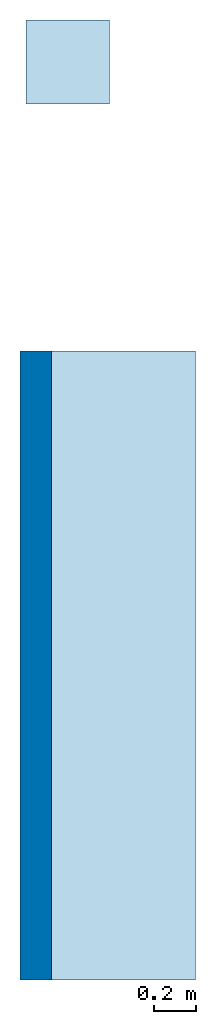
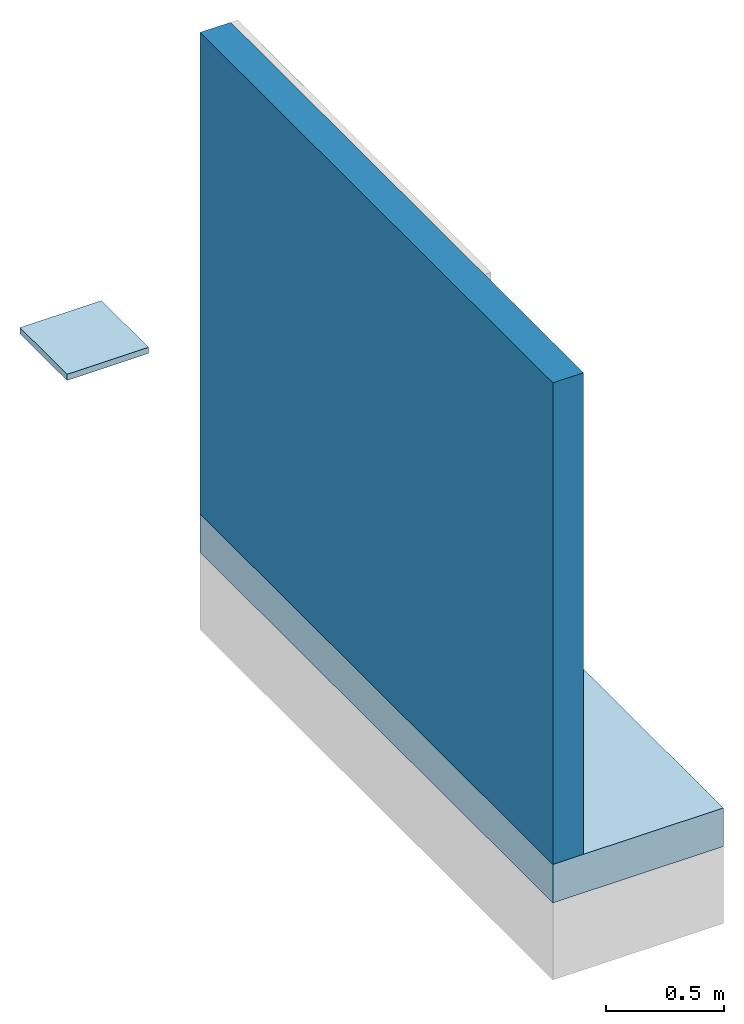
# One storey, part 1 of 2: 2 slabs, 1 wall.
"""IFC2X3 building model written with IfcOpenShell, lengths in metres."""

from ifc_helpers import new_model, entity, si_unit, converted_unit, derived_unit, direction, frame, frame_2d, origin, origin_2d_with_axis, place, context, subcontext, project, spatial, rectangle, extrude, material, layer, layer_set, layer_usage, type_object, element, save


model = new_model("IFC2X3")

# Units and contexts
model_context = context("Model", 3, precision=1e-05, world=origin(), true_north=direction((6.123031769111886e-17, 1.0)))
body_context = subcontext(model_context, "Body", "Model", "MODEL_VIEW")
ifc_project = project(units=[si_unit("LENGTHUNIT", "METRE"), si_unit("AREAUNIT", "SQUARE_METRE"), si_unit("VOLUMEUNIT", "CUBIC_METRE"), converted_unit("PLANEANGLEUNIT", "DEGREE", entity("IfcRatioMeasure", 0.017453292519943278), si_unit("PLANEANGLEUNIT", "RADIAN"), dimensions=[0, 0, 0, 0, 0, 0, 0]), si_unit("MASSUNIT", "GRAM", prefix="KILO"), derived_unit("MASSDENSITYUNIT", [(si_unit("MASSUNIT", "GRAM", prefix="KILO"), 1), (si_unit("LENGTHUNIT", "METRE"), -3)]), derived_unit("IONCONCENTRATIONUNIT", [(si_unit("MASSUNIT", "GRAM", prefix="KILO"), 1), (si_unit("LENGTHUNIT", "METRE"), -3)]), derived_unit("MOMENTOFINERTIAUNIT", [(si_unit("LENGTHUNIT", "METRE"), 4)]), si_unit("TIMEUNIT", "SECOND"), si_unit("FREQUENCYUNIT", "HERTZ"), si_unit("THERMODYNAMICTEMPERATUREUNIT", "DEGREE_CELSIUS"), derived_unit("THERMALTRANSMITTANCEUNIT", [(si_unit("MASSUNIT", "GRAM", prefix="KILO"), 1), (si_unit("THERMODYNAMICTEMPERATUREUNIT", "KELVIN"), -1), (si_unit("TIMEUNIT", "SECOND"), -3)]), derived_unit("THERMALCONDUCTANCEUNIT", [(si_unit("MASSUNIT", "GRAM", prefix="KILO"), 1), (si_unit("THERMODYNAMICTEMPERATUREUNIT", "KELVIN"), -1), (si_unit("TIMEUNIT", "SECOND"), -3), (si_unit("LENGTHUNIT", "METRE"), 1)]), derived_unit("VOLUMETRICFLOWRATEUNIT", [(si_unit("LENGTHUNIT", "METRE"), 3), (si_unit("TIMEUNIT", "SECOND"), -1)]), derived_unit("MASSFLOWRATEUNIT", [(si_unit("MASSUNIT", "GRAM", prefix="KILO"), 1), (si_unit("TIMEUNIT", "SECOND"), -1)]), derived_unit("ROTATIONALFREQUENCYUNIT", [(si_unit("TIMEUNIT", "SECOND"), -1)]), si_unit("ELECTRICCURRENTUNIT", "AMPERE"), si_unit("ELECTRICVOLTAGEUNIT", "VOLT"), si_unit("POWERUNIT", "WATT"), si_unit("FORCEUNIT", "NEWTON", prefix="KILO"), si_unit("ILLUMINANCEUNIT", "LUX"), si_unit("LUMINOUSFLUXUNIT", "LUMEN"), si_unit("LUMINOUSINTENSITYUNIT", "CANDELA"), derived_unit("USERDEFINED", [(si_unit("MASSUNIT", "GRAM", prefix="KILO"), -1), (si_unit("LENGTHUNIT", "METRE"), -2), (si_unit("TIMEUNIT", "SECOND"), 3), (si_unit("LUMINOUSFLUXUNIT", "LUMEN"), 1)]), derived_unit("USERDEFINED", [(si_unit("MASSUNIT", "GRAM", prefix="KILO"), 1), (si_unit("TIMEUNIT", "SECOND"), -3), (si_unit("LENGTHUNIT", "METRE"), 3), (si_unit("ELECTRICCURRENTUNIT", "AMPERE"), -2)]), derived_unit("SOUNDPOWERUNIT", [(si_unit("MASSUNIT", "GRAM", prefix="KILO"), 1), (si_unit("TIMEUNIT", "SECOND"), -3), (si_unit("LENGTHUNIT", "METRE"), 2)]), derived_unit("SOUNDPRESSUREUNIT", [(si_unit("MASSUNIT", "GRAM", prefix="KILO"), 1), (si_unit("LENGTHUNIT", "METRE"), -1), (si_unit("TIMEUNIT", "SECOND"), -2)]), derived_unit("LINEARVELOCITYUNIT", [(si_unit("LENGTHUNIT", "METRE"), 1), (si_unit("TIMEUNIT", "SECOND"), -1)]), si_unit("PRESSUREUNIT", "PASCAL"), derived_unit("USERDEFINED", [(si_unit("MASSUNIT", "GRAM", prefix="KILO"), 1), (si_unit("LENGTHUNIT", "METRE"), -2), (si_unit("TIMEUNIT", "SECOND"), -2)]), derived_unit("LINEARFORCEUNIT", [(si_unit("MASSUNIT", "GRAM", prefix="KILO"), 1), (si_unit("TIMEUNIT", "SECOND"), -2)]), derived_unit("PLANARFORCEUNIT", [(si_unit("MASSUNIT", "GRAM", prefix="KILO"), 1), (si_unit("LENGTHUNIT", "METRE"), -1), (si_unit("TIMEUNIT", "SECOND"), -2)]), derived_unit("SPECIFICHEATCAPACITYUNIT", [(si_unit("THERMODYNAMICTEMPERATUREUNIT", "KELVIN"), -1), (si_unit("LENGTHUNIT", "METRE"), 2), (si_unit("TIMEUNIT", "SECOND"), -2)]), derived_unit("HEATINGVALUEUNIT", [(si_unit("LENGTHUNIT", "METRE"), 2), (si_unit("TIMEUNIT", "SECOND"), -2)]), derived_unit("VAPORPERMEABILITYUNIT", [(si_unit("LENGTHUNIT", "METRE"), -1), (si_unit("TIMEUNIT", "SECOND"), 1)]), derived_unit("DYNAMICVISCOSITYUNIT", [(si_unit("MASSUNIT", "GRAM", prefix="KILO"), 1), (si_unit("TIMEUNIT", "SECOND"), -1), (si_unit("LENGTHUNIT", "METRE"), -1)]), derived_unit("THERMALEXPANSIONCOEFFICIENTUNIT", [(si_unit("THERMODYNAMICTEMPERATUREUNIT", "KELVIN"), -1)]), derived_unit("MODULUSOFELASTICITYUNIT", [(si_unit("MASSUNIT", "GRAM", prefix="KILO"), 1), (si_unit("LENGTHUNIT", "METRE"), -1), (si_unit("TIMEUNIT", "SECOND"), -2)]), derived_unit("ISOTHERMALMOISTURECAPACITYUNIT", [(si_unit("LENGTHUNIT", "METRE"), 3), (si_unit("MASSUNIT", "GRAM", prefix="KILO"), -1)]), derived_unit("MOISTUREDIFFUSIVITYUNIT", [(si_unit("TIMEUNIT", "SECOND"), -1), (si_unit("LENGTHUNIT", "METRE"), 2)])], contexts=[model_context])

# Site, building, storey
site_placement = place(None, origin())
site = spatial("IfcSite", under=ifc_project, at=site_placement, Name="Default", CompositionType="ELEMENT")
building_placement = place(site_placement, origin())
building = spatial("IfcBuilding", under=site, at=building_placement, CompositionType="ELEMENT")
storey_placement = place(building_placement, frame((0.0, 0.0, -0.0025237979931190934)))
storey = spatial("IfcBuildingStorey", under=building, at=storey_placement, Name="ARQ Térreo", CompositionType="ELEMENT", Elevation=-0.0025237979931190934)

# Slabs
ifc_material_1 = material(Name="#Viaplus Reparo")
ifc_layer_1 = layer(ifc_material_1, 0.0009999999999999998)
ifc_material_2 = material(Name="#reboco")
ifc_layer_2 = layer(ifc_material_2, 0.03)
ifc_material_3 = material(Name="#chapisco")
ifc_layer_3 = layer(ifc_material_3, 0.0009999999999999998)
ifc_layer_set_1 = layer_set([ifc_layer_1, ifc_layer_2, ifc_layer_3], Name="Piso:IMPH_VPREPARO")
ifc_layer_usage_1 = layer_usage(ifc_layer_set_1, "AXIS3", "POSITIVE", 0.0)
slab_type_1 = type_object("IfcSlabType", Name="Piso:IMPH_VPREPARO", PredefinedType="FLOOR", material=ifc_layer_set_1)
slab_1_placement = place(storey_placement, origin())
element("IfcSlab", 1, at=slab_1_placement, inside=storey, type_object=slab_type_1, material=ifc_layer_usage_1, Name="Piso:IMPH_VPREPARO", ObjectType="Piso:IMPH_VPREPARO", PredefinedType="FLOOR", context=body_context, shape_type="SweptSolid", body=[
    extrude(rectangle(XDim=0.4, YDim=0.4, at=origin_2d_with_axis()), frame((-0.13947178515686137, 2.254124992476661, 0.0), z_axis=(0.0, 0.0, -1.0), x_axis=(0.0, 1.0, 0.0)), (0.0, 0.0, 1.0), 0.032),
])
ifc_material_4 = material(Name="#concreto")
ifc_layer_4 = layer(ifc_material_4, 0.2)
ifc_layer_set_2 = layer_set([ifc_layer_4], Name="Piso:Piso:LAJE CONCRETO")
ifc_layer_usage_2 = layer_usage(ifc_layer_set_2, "AXIS3", "POSITIVE", 0.0)
slab_type_2 = type_object("IfcSlabType", Name="Piso:Piso:LAJE CONCRETO", PredefinedType="FLOOR", material=ifc_layer_set_2)
slab_2_placement = place(storey_placement, origin())
element("IfcSlab", 2, at=slab_2_placement, inside=storey, type_object=slab_type_2, material=ifc_layer_usage_2, Name="Piso:Piso:LAJE CONCRETO", ObjectType="Piso:Piso:LAJE CONCRETO", PredefinedType="FLOOR", context=body_context, shape_type="SweptSolid", body=[
    extrude(rectangle(XDim=3.0000000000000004, YDim=0.8370347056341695, at=frame_2d((0.0, 8.326672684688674e-17), x_axis=(1.0, 0.0))), frame((0.051467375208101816, -0.6256739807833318, 0.0), z_axis=(0.0, 0.0, -1.0), x_axis=(0.0, 1.0, 0.0)), (0.0, 0.0, 1.0), 0.2),
])

# Wall
ifc_material_5 = material(Name="Alvanearia")
ifc_layer_5 = layer(ifc_material_5, 0.14999999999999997)
ifc_layer_set_3 = layer_set([ifc_layer_5], Name="Parede básica:Parede de Alvenaria 2")
ifc_layer_usage_3 = layer_usage(ifc_layer_set_3, "AXIS2", "NEGATIVE", 0.07499999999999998)
wall_type = type_object("IfcWallType", Name="Parede básica:Parede de Alvenaria 2", PredefinedType="STANDARD", material=ifc_layer_set_3)
wall_placement = place(storey_placement, frame((-0.2920499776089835, 0.8743260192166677, 0.0), z_axis=(0.0, 0.0, 1.0), x_axis=(0.0, -1.0, 0.0)))
element("IfcWallStandardCase", 3, at=wall_placement, inside=storey, type_object=wall_type, material=ifc_layer_usage_3, Name="Parede básica:Parede Concreto", ObjectType="Parede básica:Parede Concreto", context=body_context, shape_type="SweptSolid", body=[
    extrude(rectangle(XDim=2.9999999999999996, YDim=0.14999999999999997, at=frame_2d((1.4999999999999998, -2.0816681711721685e-17), x_axis=(-1.0, 0.0))), origin(), (0.0, 0.0, 1.0), 2.4999999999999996),
])

save(model, "model.ifc")
